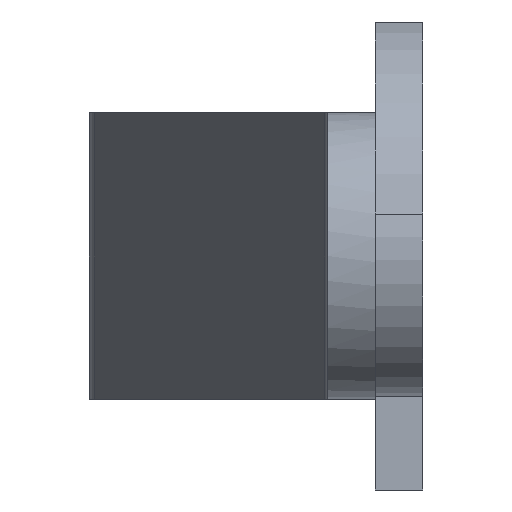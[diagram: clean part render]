
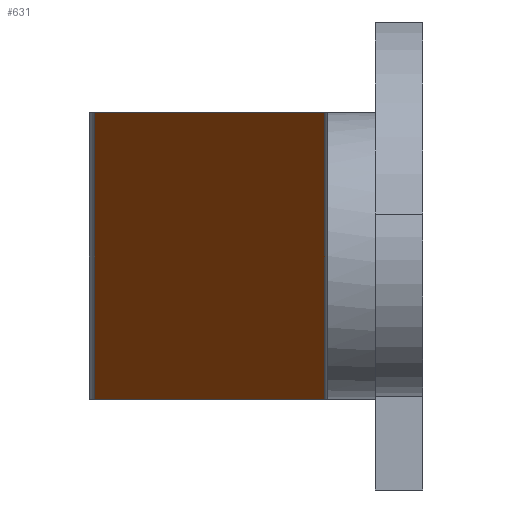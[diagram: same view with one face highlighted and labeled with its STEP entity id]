
A CAD part, left-side view. The second image highlights one B-rep face of the part: STEP entity #631.
In plain terms, the highlighted planar face has unit normal (-0.347, 0.938, 0).
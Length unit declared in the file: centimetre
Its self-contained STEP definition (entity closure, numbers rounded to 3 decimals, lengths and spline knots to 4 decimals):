
#118=PLANE('',#684);
#121=VECTOR('',#693,1.);
#124=VECTOR('',#700,1.);
#139=VECTOR('',#730,1.);
#170=VECTOR('',#817,1.);
#172=LINE('',#835,#121);
#175=LINE('',#843,#124);
#190=LINE('',#886,#139);
#221=LINE('',#976,#170);
#222=VERTEX_POINT('',#829);
#225=VERTEX_POINT('',#834);
#228=VERTEX_POINT('',#844);
#247=VERTEX_POINT('',#885);
#302=EDGE_CURVE('',#225,#222,#172,.T.);
#306=EDGE_CURVE('',#228,#222,#175,.T.);
#329=EDGE_CURVE('',#247,#225,#190,.T.);
#377=EDGE_CURVE('',#228,#247,#221,.T.);
#531=ORIENTED_EDGE('',*,*,#302,.F.);
#532=ORIENTED_EDGE('',*,*,#329,.F.);
#533=ORIENTED_EDGE('',*,*,#377,.F.);
#534=ORIENTED_EDGE('',*,*,#306,.T.);
#569=EDGE_LOOP('',(#531,#532,#533,#534));
#601=FACE_BOUND('',#569,.T.);
#631=ADVANCED_FACE('',(#601),#118,.T.);
#684=AXIS2_PLACEMENT_3D('',#981,#825,$);
#693=DIRECTION('',(0.,0.,1.));
#700=DIRECTION('',(0.938,0.347,0.));
#730=DIRECTION('',(0.938,0.347,0.));
#817=DIRECTION('',(0.,0.,-1.));
#825=DIRECTION('',(-0.347,0.938,0.));
#829=CARTESIAN_POINT('',(9.4309,3.7309,3.81));
#834=CARTESIAN_POINT('',(9.4309,3.7309,0.));
#835=CARTESIAN_POINT('',(9.4309,3.7309,0.));
#843=CARTESIAN_POINT('',(1.0719,0.635,3.81));
#844=CARTESIAN_POINT('',(1.1786,0.6745,3.81));
#885=CARTESIAN_POINT('',(1.1786,0.6745,0.));
#886=CARTESIAN_POINT('',(1.0719,0.635,0.));
#976=CARTESIAN_POINT('',(1.1786,0.6745,0.));
#981=CARTESIAN_POINT('',(5.3581,2.2225,0.));
